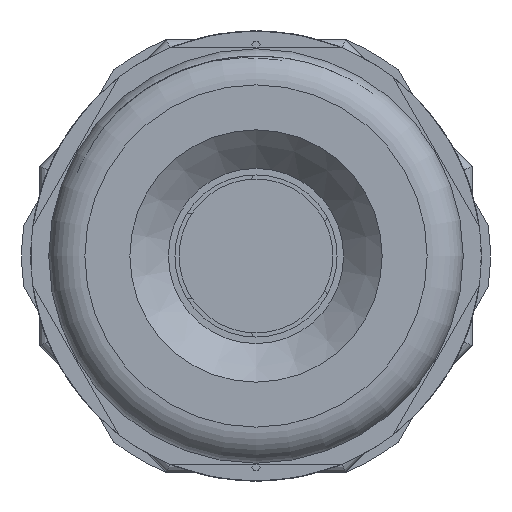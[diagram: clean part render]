
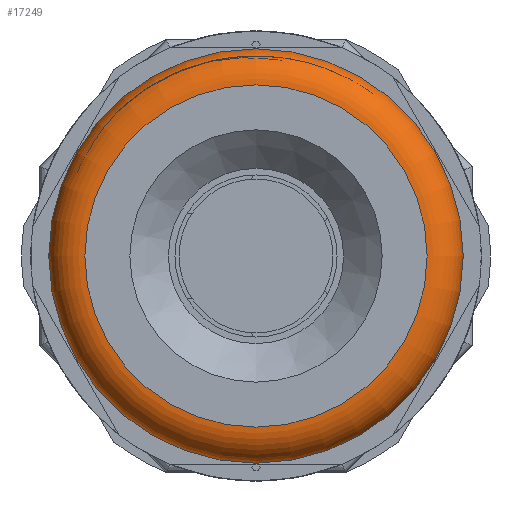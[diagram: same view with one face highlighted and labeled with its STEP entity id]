
A CAD part, left-side view. The second image highlights one B-rep face of the part: STEP entity #17249.
In plain terms, the highlighted toroidal (fillet/blend) face has major radius 9.5 mm and minor radius 2 mm.
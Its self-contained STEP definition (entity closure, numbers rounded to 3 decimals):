
#105=TOROIDAL_SURFACE('',#18295,9.5,2.);
#885=FACE_OUTER_BOUND('',#1871,.T.);
#1871=EDGE_LOOP('',(#11835,#11836,#11837,#11838,#11839));
#2887=CIRCLE('',#18296,11.5);
#2888=CIRCLE('',#18297,2.);
#2889=CIRCLE('',#18298,9.5);
#2890=CIRCLE('',#18299,11.5);
#7218=VERTEX_POINT('',#26499);
#7219=VERTEX_POINT('',#26500);
#7220=VERTEX_POINT('',#26502);
#9030=EDGE_CURVE('',#7218,#7219,#2887,.T.);
#9031=EDGE_CURVE('',#7219,#7220,#2888,.T.);
#9032=EDGE_CURVE('',#7220,#7220,#2889,.T.);
#9033=EDGE_CURVE('',#7219,#7218,#2890,.T.);
#11835=ORIENTED_EDGE('',*,*,#9030,.T.);
#11836=ORIENTED_EDGE('',*,*,#9031,.T.);
#11837=ORIENTED_EDGE('',*,*,#9032,.T.);
#11838=ORIENTED_EDGE('',*,*,#9031,.F.);
#11839=ORIENTED_EDGE('',*,*,#9033,.T.);
#17249=ADVANCED_FACE('',(#885),#105,.T.);
#18295=AXIS2_PLACEMENT_3D('',#26498,#19776,#19777);
#18296=AXIS2_PLACEMENT_3D('',#26501,#19778,#19779);
#18297=AXIS2_PLACEMENT_3D('',#26503,#19780,#19781);
#18298=AXIS2_PLACEMENT_3D('',#26504,#19782,#19783);
#18299=AXIS2_PLACEMENT_3D('',#26505,#19784,#19785);
#19776=DIRECTION('center_axis',(1.,0.,0.));
#19777=DIRECTION('ref_axis',(0.,0.,1.));
#19778=DIRECTION('center_axis',(-1.,0.,0.));
#19779=DIRECTION('ref_axis',(0.,-1.,0.));
#19780=DIRECTION('center_axis',(0.,1.,0.));
#19781=DIRECTION('ref_axis',(0.,0.,-1.));
#19782=DIRECTION('center_axis',(1.,0.,0.));
#19783=DIRECTION('ref_axis',(0.,-1.,0.));
#19784=DIRECTION('center_axis',(-1.,0.,0.));
#19785=DIRECTION('ref_axis',(0.,-1.,0.));
#26498=CARTESIAN_POINT('Origin',(-65.5,47.5,0.));
#26499=CARTESIAN_POINT('',(-65.5,59.,0.));
#26500=CARTESIAN_POINT('',(-65.5,47.5,-11.5));
#26501=CARTESIAN_POINT('Origin',(-65.5,47.5,0.));
#26502=CARTESIAN_POINT('',(-67.5,47.5,-9.5));
#26503=CARTESIAN_POINT('Origin',(-65.5,47.5,-9.5));
#26504=CARTESIAN_POINT('Origin',(-67.5,47.5,0.));
#26505=CARTESIAN_POINT('Origin',(-65.5,47.5,0.));
